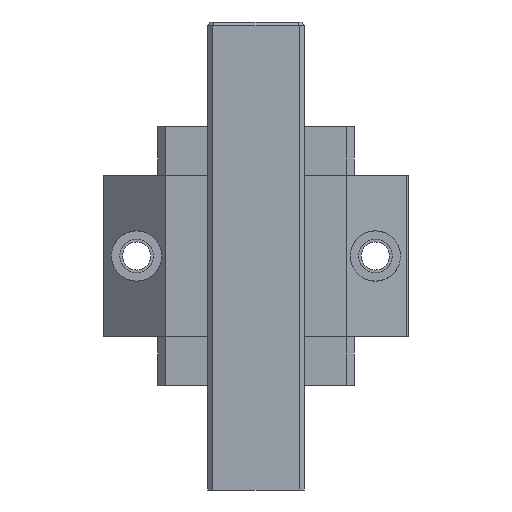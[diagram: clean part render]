
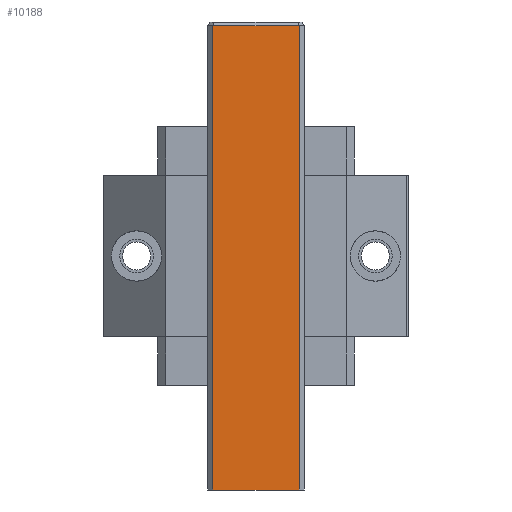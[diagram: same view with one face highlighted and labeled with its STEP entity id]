
A CAD part, front view. The second image highlights one B-rep face of the part: STEP entity #10188.
In plain terms, the highlighted planar face has unit normal (0, -1, 0).
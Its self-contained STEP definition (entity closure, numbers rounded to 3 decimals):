
#9149=DIRECTION('',(1.,0.,0.));
#9150=VECTOR('',#9149,20.6);
#9151=CARTESIAN_POINT('',(-10.3,-14.6,-55.85));
#9152=LINE('',#9151,#9150);
#9422=DIRECTION('',(1.,0.,0.));
#9423=VECTOR('',#9422,20.6);
#9424=CARTESIAN_POINT('',(-10.3,-14.6,54.984));
#9425=LINE('',#9424,#9423);
#9426=DIRECTION('',(0.,0.,1.));
#9427=VECTOR('',#9426,110.834);
#9428=CARTESIAN_POINT('',(-10.3,-14.6,-55.85));
#9429=LINE('',#9428,#9427);
#9434=DIRECTION('',(0.,0.,1.));
#9435=VECTOR('',#9434,110.834);
#9436=CARTESIAN_POINT('',(10.3,-14.6,-55.85));
#9437=LINE('',#9436,#9435);
#9620=CARTESIAN_POINT('',(-10.3,-14.6,-55.85));
#9621=VERTEX_POINT('',#9620);
#9622=CARTESIAN_POINT('',(10.3,-14.6,-55.85));
#9623=VERTEX_POINT('',#9622);
#9684=CARTESIAN_POINT('',(10.3,-14.6,54.984));
#9685=VERTEX_POINT('',#9684);
#9688=CARTESIAN_POINT('',(-10.3,-14.6,54.984));
#9689=VERTEX_POINT('',#9688);
#10176=CARTESIAN_POINT('',(-10.3,-14.6,-55.85));
#10177=DIRECTION('',(0.,-1.,0.));
#10178=DIRECTION('',(1.,0.,0.));
#10179=AXIS2_PLACEMENT_3D('',#10176,#10177,#10178);
#10180=PLANE('',#10179);
#10181=ORIENTED_EDGE('',*,*,#10167,.T.);
#10183=ORIENTED_EDGE('',*,*,#10182,.F.);
#10184=ORIENTED_EDGE('',*,*,#9769,.F.);
#10185=ORIENTED_EDGE('',*,*,#10142,.T.);
#10186=EDGE_LOOP('',(#10181,#10183,#10184,#10185));
#10187=FACE_OUTER_BOUND('',#10186,.F.);
#9769=EDGE_CURVE('',#9621,#9623,#9152,.T.);
#10142=EDGE_CURVE('',#9621,#9689,#9429,.T.);
#10167=EDGE_CURVE('',#9689,#9685,#9425,.T.);
#10182=EDGE_CURVE('',#9623,#9685,#9437,.T.);
#10188=ADVANCED_FACE('',(#10187),#10180,.T.);
